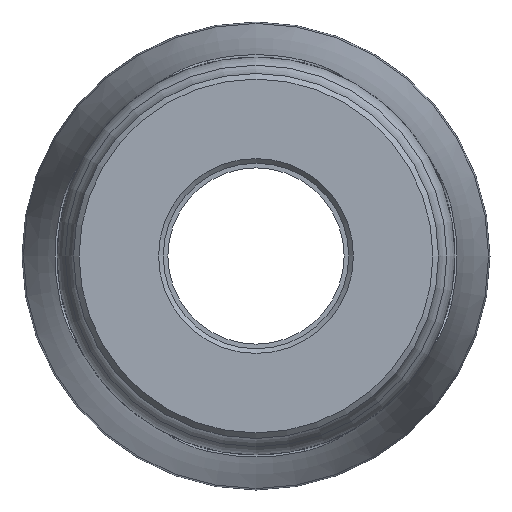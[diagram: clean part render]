
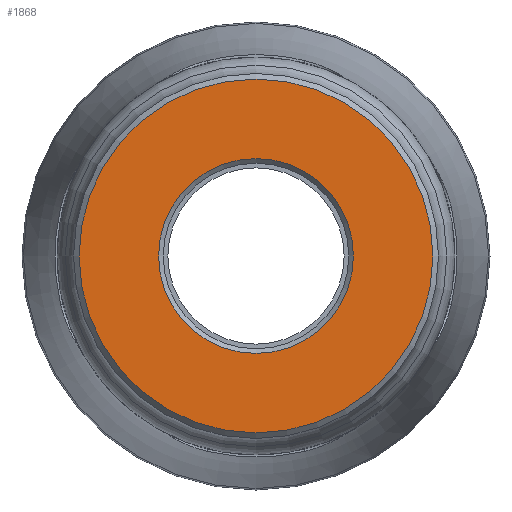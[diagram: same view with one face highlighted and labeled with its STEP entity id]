
A CAD part, left-side view. The second image highlights one B-rep face of the part: STEP entity #1868.
In plain terms, the highlighted planar face has unit normal (-1, 0, 0).
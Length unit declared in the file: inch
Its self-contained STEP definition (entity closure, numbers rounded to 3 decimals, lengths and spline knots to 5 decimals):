
#15=FACE_BOUND('',#400,.T.);
#216=PLANE('',#2052);
#294=FACE_OUTER_BOUND('',#399,.T.);
#399=EDGE_LOOP('',(#1312));
#400=EDGE_LOOP('',(#1313));
#538=CIRCLE('',#2049,0.38525);
#541=CIRCLE('',#2053,0.69949);
#749=VERTEX_POINT('',#3249);
#752=VERTEX_POINT('',#3257);
#956=EDGE_CURVE('',#749,#749,#538,.T.);
#960=EDGE_CURVE('',#752,#752,#541,.T.);
#1312=ORIENTED_EDGE('',*,*,#960,.F.);
#1313=ORIENTED_EDGE('',*,*,#956,.F.);
#1868=ADVANCED_FACE('',(#294,#15),#216,.T.);
#2049=AXIS2_PLACEMENT_3D('',#3250,#2377,#2378);
#2052=AXIS2_PLACEMENT_3D('',#3256,#2384,#2385);
#2053=AXIS2_PLACEMENT_3D('',#3258,#2386,#2387);
#2377=DIRECTION('center_axis',(-1.,0.,0.));
#2378=DIRECTION('ref_axis',(0.,-1.,0.));
#2384=DIRECTION('center_axis',(-1.,0.,0.));
#2385=DIRECTION('ref_axis',(0.,0.,1.));
#2386=DIRECTION('center_axis',(1.,0.,0.));
#2387=DIRECTION('ref_axis',(0.,-1.,0.));
#3249=CARTESIAN_POINT('',(0.,0.38525,0.));
#3250=CARTESIAN_POINT('Origin',(0.,0.,0.));
#3256=CARTESIAN_POINT('Origin',(0.,0.7215,0.));
#3257=CARTESIAN_POINT('',(0.,0.69949,0.));
#3258=CARTESIAN_POINT('Origin',(0.,0.,0.));
